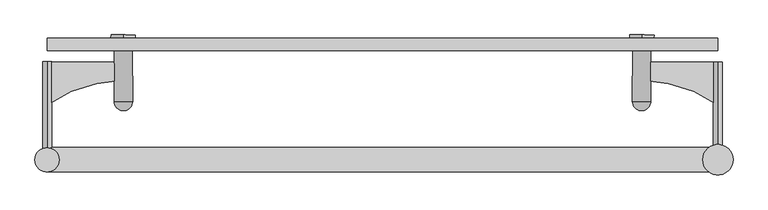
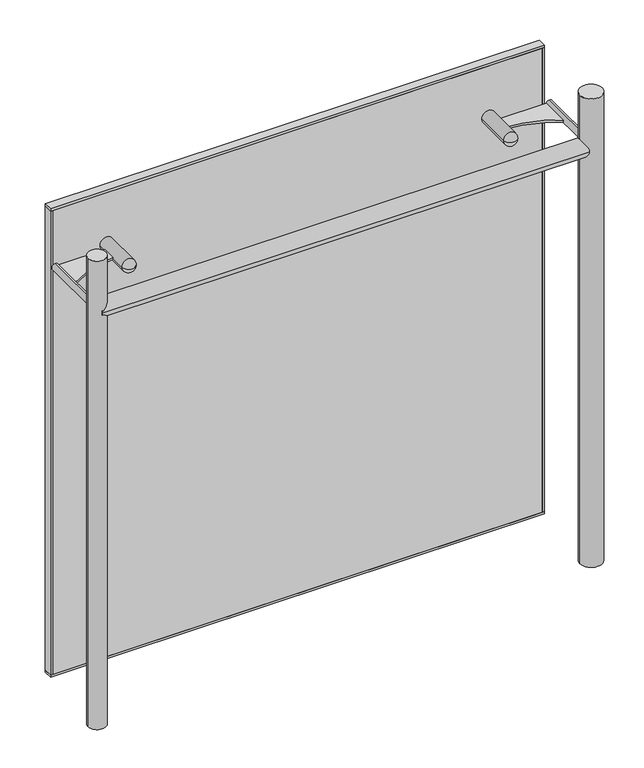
"""IFC4 building model written with IfcOpenShell, lengths in millimetres: plate geometry, FLATNING_TRYOUT : FLATNING_TRYOUT."""

from ifc_helpers import new_model, si_unit, point, frame, frame_2d, origin, origin_with_axes, place, context, project, spatial, polyline, circle_curve, ellipse_curve, trimmed, segment, composite_curve, outline, extrude, source, transform, mapped, element, save
from ifc_brep_helpers import plane_surface, cylinder_surface, revolved_surface, advanced_brep


def plate_3a32f387(model_context):
    return source(origin(), model_context, "Body", "SolidModel", [
        extrude(outline(composite_curve([segment(polyline([(-426.2687855, -38.8216715), (-426.1142855, -68.8212736)]), True, "CONTINUOUS"), segment(trimmed(circle_curve(frame_2d((-420.7319813, -297.2522505)), 228.4943772), [point((-426.1142855, -68.8212736))], [point((-550.9066278, -109.4644932))], True, "CARTESIAN"), True, "CONTINUOUS"), segment(polyline([(-550.9066278, -109.4644932), (-551.2671278, -39.4654215), (-426.2687855, -38.8216715)]), True, "CONTINUOUS")], self_intersect=False)), frame((0.0, 0.0, 977.5), z_axis=(0.0, 0.0, 1.0), x_axis=(1.0, 0.0, 0.0)), (0.0, 0.0, 1.0), 5.0),
        advanced_brep(
        [(-426.4747855, 1.1777981, 980.0), (-431.4747192, 1.1520481, 980.0), (-421.4748518, 1.2035481, 980.0), (-411.3719844, -18.7446867, 980.0), (-441.3715865, -18.8991867, 980.0), (-440.9338365, -103.8980595, 980.0), (-410.9342344, -103.7435595, 980.0), (-421.3718518, -18.7961867, 980.0), (-431.3717192, -18.8476867, 980.0), (-425.8567855, -118.8206106, 980.0)],
        [
            (0, 1),
            (1, 2, circle_curve(frame((-426.4747855, 1.1777981, 980.0), z_axis=(-0.0051500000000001, 0.9999867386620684, 0.0), x_axis=(-0.9999867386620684, -0.0051500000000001, 0.0)), 5.0)),
            (2, 0),
            (2, 1, circle_curve(frame((-426.4747855, 1.1777981, 980.0), z_axis=(-0.0051500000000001, 0.9999867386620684, 0.0), x_axis=(-0.9999867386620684, -0.0051500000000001, 0.0)), 5.0)),
            (3, 4, circle_curve(frame((-426.3717855, -18.8219367, 980.0), z_axis=(0.0051500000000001, -0.9999867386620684, 0.0), x_axis=(-0.9999867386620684, -0.0051500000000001, 0.0)), 15.0)),
            (4, 5),
            (5, 6, circle_curve(frame((-425.9340355, -103.8208095, 980.0), z_axis=(-0.0051500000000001, 0.9999867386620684, 0.0), x_axis=(-0.9999867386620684, -0.0051500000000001, 0.0)), 15.0)),
            (6, 3),
            (4, 3, circle_curve(frame((-426.3717855, -18.8219367, 980.0), z_axis=(0.0051500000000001, -0.9999867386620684, 0.0), x_axis=(-0.9999867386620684, -0.0051500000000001, 0.0)), 15.0)),
            (6, 5, circle_curve(frame((-425.9340355, -103.8208095, 980.0), z_axis=(-0.0051500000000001, 0.9999867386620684, 0.0), x_axis=(-0.9999867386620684, -0.0051500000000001, 0.0)), 15.0)),
            (7, 8, circle_curve(frame((-426.3717855, -18.8219367, 980.0), z_axis=(0.0051500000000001, -0.9999867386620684, 0.0), x_axis=(-0.9999867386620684, -0.0051500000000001, 0.0)), 5.0)),
            (8, 4),
            (3, 7),
            (8, 7, circle_curve(frame((-426.3717855, -18.8219367, 980.0), z_axis=(0.0051500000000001, -0.9999867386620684, 0.0), x_axis=(-0.9999867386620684, -0.0051500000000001, 0.0)), 5.0)),
            (1, 8),
            (7, 2),
            (5, 9, circle_curve(frame((-425.9340355, -103.8208095, 980.0), z_axis=(0.0, 0.0, 1.0), x_axis=(-0.9999867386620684, -0.0051500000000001, 0.0)), 15.0)),
            (9, 6, circle_curve(frame((-425.9340355, -103.8208095, 980.0), z_axis=(0.0, 0.0, 1.0), x_axis=(0.9999867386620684, 0.0051500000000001, 0.0)), 15.0)),
        ],
        [
            plane_surface(frame((-426.4747855, 1.1777981, 980.0), z_axis=(-0.0051500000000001, 0.9999867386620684, 0.0), x_axis=(-0.9999867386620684, -0.0051500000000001, 0.0))),
            cylinder_surface(frame((-427.7880355, 256.1744164, 980.0), z_axis=(-0.0051500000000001, 0.9999867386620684, 0.0), x_axis=(-0.9999867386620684, -0.0051500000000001, 0.0)), 15.0),
            plane_surface(frame((-426.3717855, -18.8219367, 980.0), z_axis=(-0.0051500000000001, 0.9999867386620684, 0.0), x_axis=(-0.9999867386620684, -0.0051500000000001, 0.0))),
            cylinder_surface(frame((-427.7880355, 256.1744164, 980.0), z_axis=(-0.0051500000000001, 0.9999867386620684, 0.0), x_axis=(-0.9999867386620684, -0.0051500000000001, 0.0)), 5.0),
            revolved_surface(trimmed(ellipse_curve(frame((-425.9340355, -103.8208095, 980.0), z_axis=(0.0, 0.0, -1.0), x_axis=(-0.9999867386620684, -0.0051500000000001, 0.0)), 15.0, 15.0), [point((-425.8567855, -118.8206106, 980.0))], [point((-440.9338365, -103.8980595, 980.0))], True, "CARTESIAN"), (-427.7880355, 256.1744164, 980.0), (-0.0051500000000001, 0.9999867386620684, 0.0)),
        ],
        [
            (0, [[1, 2, 3]]),
            (0, [[-3, 4, -1]]),
            (1, [[5, 6, 7, 8]]),
            (1, [[9, -8, 10, -6]]),
            (2, [[11, 12, -5, 13]]),
            (2, [[14, -13, -9, -12]]),
            (3, [[-2, 15, -11, 16]]),
            (3, [[-4, -16, -14, -15]]),
            (4, [[-7, 17, 18]]),
            (4, [[-10, -18, -17]]),
        ],
    ),
        extrude(outline(composite_curve([segment(polyline([(426.2687855, -38.8216715), (551.2671278, -39.4654215), (550.9066278, -109.4644932)]), True, "CONTINUOUS"), segment(trimmed(circle_curve(frame_2d((420.7319813, -297.2522505)), 228.4943772), [point((550.9066278, -109.4644932))], [point((426.1142855, -68.8212736))], True, "CARTESIAN"), True, "CONTINUOUS"), segment(polyline([(426.1142855, -68.8212736), (426.2687855, -38.8216715)]), True, "CONTINUOUS")], self_intersect=False)), frame((0.0, 0.0, 977.5), z_axis=(0.0, 0.0, 1.0), x_axis=(1.0, 0.0, 0.0)), (0.0, 0.0, 1.0), 5.0),
        advanced_brep(
        [(426.4747855, 1.1777981, 980.0), (431.4747192, 1.1520481, 980.0), (421.4748518, 1.2035481, 980.0), (411.3719844, -18.7446867, 980.0), (441.3715865, -18.8991867, 980.0), (440.9338365, -103.8980595, 980.0), (410.9342344, -103.7435595, 980.0), (421.3718518, -18.7961867, 980.0), (431.3717192, -18.8476867, 980.0), (425.8567855, -118.8206106, 980.0)],
        [
            (0, 1),
            (1, 2, circle_curve(frame((426.4747855, 1.1777981, 980.0), z_axis=(0.005149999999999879, 0.9999867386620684, 0.0), x_axis=(0.9999867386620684, -0.005149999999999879, 0.0)), 5.0)),
            (2, 0),
            (2, 1, circle_curve(frame((426.4747855, 1.1777981, 980.0), z_axis=(0.005149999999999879, 0.9999867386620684, 0.0), x_axis=(0.9999867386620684, -0.005149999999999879, 0.0)), 5.0)),
            (3, 4, circle_curve(frame((426.3717855, -18.8219367, 980.0), z_axis=(-0.005149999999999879, -0.9999867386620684, 0.0), x_axis=(0.9999867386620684, -0.005149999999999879, 0.0)), 15.0)),
            (4, 5),
            (5, 6, circle_curve(frame((425.9340355, -103.8208095, 980.0), z_axis=(0.005149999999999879, 0.9999867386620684, 0.0), x_axis=(0.9999867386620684, -0.005149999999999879, 0.0)), 15.0)),
            (6, 3),
            (4, 3, circle_curve(frame((426.3717855, -18.8219367, 980.0), z_axis=(-0.005149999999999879, -0.9999867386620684, 0.0), x_axis=(0.9999867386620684, -0.005149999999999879, 0.0)), 15.0)),
            (6, 5, circle_curve(frame((425.9340355, -103.8208095, 980.0), z_axis=(0.005149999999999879, 0.9999867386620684, 0.0), x_axis=(0.9999867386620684, -0.005149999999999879, 0.0)), 15.0)),
            (7, 8, circle_curve(frame((426.3717855, -18.8219367, 980.0), z_axis=(-0.005149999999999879, -0.9999867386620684, 0.0), x_axis=(0.9999867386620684, -0.005149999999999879, 0.0)), 5.0)),
            (8, 4),
            (3, 7),
            (8, 7, circle_curve(frame((426.3717855, -18.8219367, 980.0), z_axis=(-0.005149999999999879, -0.9999867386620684, 0.0), x_axis=(0.9999867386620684, -0.005149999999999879, 0.0)), 5.0)),
            (1, 8),
            (7, 2),
            (5, 9, circle_curve(frame((425.9340355, -103.8208095, 980.0), z_axis=(0.0, 0.0, -1.0), x_axis=(0.9999867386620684, -0.005149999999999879, 0.0)), 15.0)),
            (9, 6, circle_curve(frame((425.9340355, -103.8208095, 980.0), z_axis=(0.0, 0.0, -1.0), x_axis=(-0.9999867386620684, 0.005149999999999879, 0.0)), 15.0)),
        ],
        [
            plane_surface(frame((426.4747855, 1.1777981, 980.0), z_axis=(0.005149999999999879, 0.9999867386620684, 0.0), x_axis=(0.9999867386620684, -0.005149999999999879, 0.0))),
            cylinder_surface(frame((427.7880355, 256.1744164, 980.0), z_axis=(0.005149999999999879, 0.9999867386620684, 0.0), x_axis=(0.9999867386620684, -0.005149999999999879, 0.0)), 15.0),
            plane_surface(frame((426.3717855, -18.8219367, 980.0), z_axis=(0.005149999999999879, 0.9999867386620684, 0.0), x_axis=(0.9999867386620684, -0.005149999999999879, 0.0))),
            cylinder_surface(frame((427.7880355, 256.1744164, 980.0), z_axis=(0.005149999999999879, 0.9999867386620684, 0.0), x_axis=(0.9999867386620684, -0.005149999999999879, 0.0)), 5.0),
            revolved_surface(trimmed(ellipse_curve(frame((425.9340355, -103.8208095, 980.0), z_axis=(0.0, 0.0, 1.0), x_axis=(0.9999867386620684, -0.005149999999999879, 0.0)), 15.0, 15.0), [point((425.8567855, -118.8206106, 980.0))], [point((440.9338365, -103.8980595, 980.0))], True, "CARTESIAN"), (427.7880355, 256.1744164, 980.0), (0.005149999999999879, 0.9999867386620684, 0.0)),
        ],
        [
            (0, [[1, 2, 3]]),
            (0, [[-3, 4, -1]]),
            (1, [[5, 6, 7, 8]]),
            (1, [[9, -8, 10, -6]]),
            (2, [[11, 12, -5, 13]]),
            (2, [[14, -13, -9, -12]]),
            (3, [[-2, 15, -11, 16]]),
            (3, [[-4, -16, -14, -15]]),
            (4, [[-7, 17, 18]]),
            (4, [[-10, -18, -17]]),
        ],
    ),
        extrude(outline(polyline([(551.4048282, -20.0), (-551.4048282, -20.0), (-551.4048282, 0.0), (551.4048282, 0.0), (551.4048282, -20.0)])), origin_with_axes(), (0.0, 0.0, 1.0), 5.0),
        extrude(outline(polyline([(551.4048282, -20.0), (-551.4048282, -20.0), (-551.4048282, 0.0), (551.4048282, 0.0), (551.4048282, -20.0)])), frame((0.0, 0.0, 1100.0), z_axis=(0.0, 0.0, 1.0), x_axis=(1.0, 0.0, 0.0)), (0.0, 0.0, 1.0), 5.0),
        extrude(outline(polyline([(546.4048282, 0.0781286), (551.4048281, 0.0781286), (551.4048281, -20.0), (546.4048282, -20.0), (546.4048282, 0.0781286)])), frame((0.0, 0.0, 5.0), z_axis=(0.0, 0.0, 1.0), x_axis=(1.0, 0.0, 0.0)), (0.0, 0.0, 1.0), 1095.0),
        extrude(outline(polyline([(-546.4048282, 0.5343998), (-546.4048282, -20.0), (-551.4048282, -20.0), (-551.4048282, 0.5343998), (-546.4048282, 0.5343998)])), frame((0.0, 0.0, 5.0), z_axis=(0.0, 0.0, 1.0), x_axis=(1.0, 0.0, 0.0)), (0.0, 0.0, 1.0), 1095.0),
        extrude(outline(polyline([(546.4048282, -20.0), (-546.4048282, -20.0), (-546.4048282, 0.0), (546.4048282, 0.0), (546.4048282, -20.0)])), frame((0.0, 0.0, 5.0), z_axis=(0.0, 0.0, 1.0), x_axis=(1.0, 0.0, 0.0)), (0.0, 0.0, 1.0), 1095.0),
        extrude(outline(composite_curve([segment(trimmed(circle_curve(frame_2d((0.0, -20.0)), 20.0), [point((0.0, -40.0))], [point((0.0, 0.0))], False, "CARTESIAN"), True, "CONTINUOUS"), segment(trimmed(circle_curve(frame_2d((0.0, -20.0)), 20.0), [point((0.0, 0.0))], [point((0.0, -40.0))], False, "CARTESIAN"), True, "CONTINUOUS")], self_intersect=False)), frame((-426.4305782, 0.7218872, 1000.1579003), z_axis=(0.005149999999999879, 0.9999867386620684, 0.0), x_axis=(-0.9999867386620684, 0.005149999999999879, 0.0)), (0.0, 0.0, 1.0), 5.0),
        extrude(outline(composite_curve([segment(trimmed(circle_curve(frame_2d((0.0, -20.0)), 20.0), [point((0.0, -40.0))], [point((0.0, 0.0))], False, "CARTESIAN"), True, "CONTINUOUS"), segment(trimmed(circle_curve(frame_2d((0.0, -20.0)), 20.0), [point((0.0, 0.0))], [point((0.0, -40.0))], False, "CARTESIAN"), True, "CONTINUOUS")], self_intersect=False)), frame((426.3790782, 0.7218872, 1000.1579003), z_axis=(0.005149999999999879, 0.9999867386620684, 0.0), x_axis=(-0.9999867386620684, 0.005149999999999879, 0.0)), (0.0, 0.0, 1.0), 5.0),
        extrude(outline(composite_curve([segment(trimmed(circle_curve(frame_2d((-200.0, 980.0)), 20.0), [point((-220.0, 980.0))], [point((-180.0, 980.0))], False, "CARTESIAN"), True, "CONTINUOUS"), segment(trimmed(circle_curve(frame_2d((-200.0, 980.0)), 20.0), [point((-180.0, 980.0))], [point((-220.0, 980.0))], False, "CARTESIAN"), True, "CONTINUOUS")], self_intersect=False)), frame((-551.4048282, 0.0, 0.0), z_axis=(1.0, 0.0, 0.0), x_axis=(0.0, 1.0, 0.0)), (0.0, 0.0, 1.0), 1102.8096563),
        extrude(outline(composite_curve([segment(trimmed(circle_curve(frame_2d((980.0, 551.4048282)), 7.5), [point((972.5, 551.4048282))], [point((987.5, 551.4048282))], False, "CARTESIAN"), True, "CONTINUOUS"), segment(trimmed(circle_curve(frame_2d((980.0, 551.4048282)), 7.5), [point((987.5, 551.4048282))], [point((972.5, 551.4048282))], False, "CARTESIAN"), True, "CONTINUOUS")], self_intersect=False)), frame((0.0, -199.2242369, 0.0), z_axis=(0.0, 1.0, 0.0), x_axis=(0.0, 0.0, 1.0)), (0.0, 0.0, 1.0), 160.0),
        extrude(outline(composite_curve([segment(trimmed(circle_curve(frame_2d((980.0, -551.4048282)), 7.5), [point((972.5, -551.4048282))], [point((987.5, -551.4048282))], False, "CARTESIAN"), True, "CONTINUOUS"), segment(trimmed(circle_curve(frame_2d((980.0, -551.4048282)), 7.5), [point((987.5, -551.4048282))], [point((972.5, -551.4048282))], False, "CARTESIAN"), True, "CONTINUOUS")], self_intersect=False)), frame((0.0, -198.6528093, 0.0), z_axis=(0.0, 1.0, 0.0), x_axis=(0.0, 0.0, 1.0)), (0.0, 0.0, 1.0), 160.0),
        extrude(outline(composite_curve([segment(trimmed(circle_curve(frame_2d((551.4048282, -200.0)), 25.0), [point((526.4048282, -200.0))], [point((576.4048282, -200.0))], False, "CARTESIAN"), True, "CONTINUOUS"), segment(trimmed(circle_curve(frame_2d((551.4048282, -200.0)), 25.0), [point((576.4048282, -200.0))], [point((526.4048282, -200.0))], False, "CARTESIAN"), True, "CONTINUOUS")], self_intersect=False)), origin_with_axes(), (0.0, 0.0, 1.0), 1105.0),
        extrude(outline(composite_curve([segment(trimmed(circle_curve(frame_2d((-551.4048282, -200.0)), 20.0), [point((-571.4048282, -200.0))], [point((-531.4048282, -200.0))], False, "CARTESIAN"), True, "CONTINUOUS"), segment(trimmed(circle_curve(frame_2d((-551.4048282, -200.0)), 20.0), [point((-531.4048282, -200.0))], [point((-571.4048282, -200.0))], False, "CARTESIAN"), True, "CONTINUOUS")], self_intersect=False)), origin_with_axes(), (0.0, 0.0, 1.0), 1105.0),
    ])


if __name__ == "__main__":
    model = new_model("IFC4")
    model_context = context("Model", 3, world=origin())
    ifc_project = project(units=[si_unit("LENGTHUNIT", "METRE", prefix="MILLI")], contexts=[model_context])
    site = spatial("IfcSite", under=ifc_project)
    building = spatial("IfcBuilding", under=site)
    placement = place(None, origin())
    plate_shape = plate_3a32f387(model_context)
    element("IfcPlate", 1, ObjectType="FLATNING_TRYOUT : FLATNING_TRYOUT", at=placement, inside=building, context=model_context, shape_type="MappedRepresentation", body=[
        mapped(plate_shape, transform((0.0, 0.0, 0.0), x_axis=(1.0, 0.0, 0.0), y_axis=(0.0, 1.0, 0.0), z_axis=(0.0, 0.0, 1.0))),
    ])
    save(model, "model.ifc")
